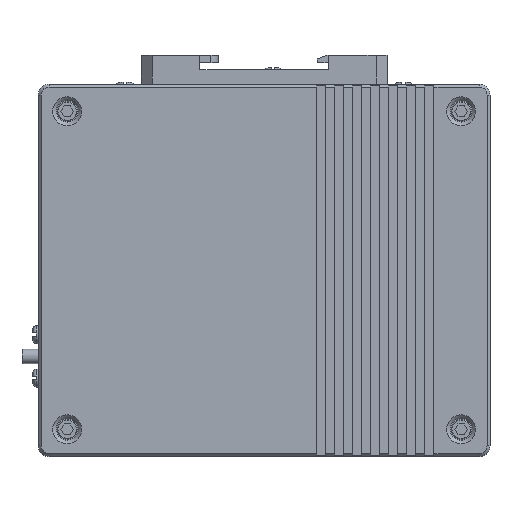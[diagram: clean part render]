
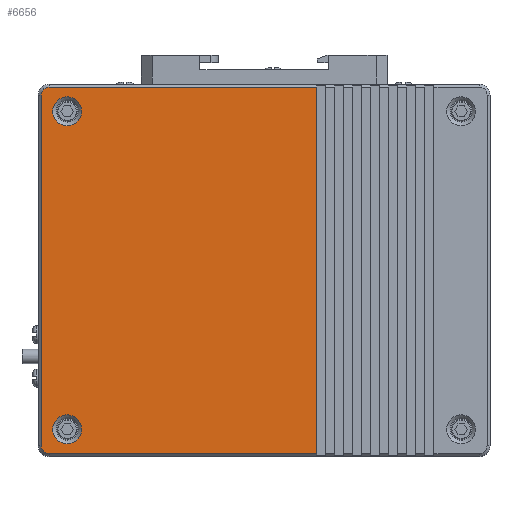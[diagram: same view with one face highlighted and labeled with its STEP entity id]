
A CAD part, top view. The second image highlights one B-rep face of the part: STEP entity #6656.
In plain terms, the highlighted planar face has unit normal (0, 0, 1).
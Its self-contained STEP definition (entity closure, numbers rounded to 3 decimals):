
#5659=CARTESIAN_POINT('',(14.5,-50.7,38.5));
#5660=VERTEX_POINT('',#5659);
#5667=CARTESIAN_POINT('',(-59.5,-50.7,38.5));
#5668=VERTEX_POINT('',#5667);
#5669=CARTESIAN_POINT('',(14.5,-50.7,38.5));
#5670=DIRECTION('',(-1.,0.,0.));
#5671=VECTOR('',#5670,74.);
#5672=LINE('',#5669,#5671);
#5673=EDGE_CURVE('',#5660,#5668,#5672,.T.);
#5697=CARTESIAN_POINT('',(-61.7,-48.5,38.5));
#5698=VERTEX_POINT('',#5697);
#5699=CARTESIAN_POINT('',(-59.5,-48.5,38.5));
#5700=DIRECTION('',(0.,-1.,0.));
#5701=DIRECTION('',(0.,0.,-1.));
#5702=AXIS2_PLACEMENT_3D('',#5699,#5701,#5700);
#5703=CIRCLE('',#5702,2.2);
#5704=EDGE_CURVE('',#5668,#5698,#5703,.T.);
#5722=CARTESIAN_POINT('',(-61.7,48.5,38.5));
#5723=VERTEX_POINT('',#5722);
#5724=CARTESIAN_POINT('',(-61.7,-48.5,38.5));
#5725=DIRECTION('',(0.,1.,0.));
#5726=VECTOR('',#5725,97.);
#5727=LINE('',#5724,#5726);
#5728=EDGE_CURVE('',#5698,#5723,#5727,.T.);
#5746=CARTESIAN_POINT('',(-59.5,50.7,38.5));
#5747=VERTEX_POINT('',#5746);
#5748=CARTESIAN_POINT('',(-59.5,48.5,38.5));
#5749=DIRECTION('',(-1.,0.,0.));
#5750=DIRECTION('',(0.,0.,-1.));
#5751=AXIS2_PLACEMENT_3D('',#5748,#5750,#5749);
#5752=CIRCLE('',#5751,2.2);
#5753=EDGE_CURVE('',#5723,#5747,#5752,.T.);
#5809=CARTESIAN_POINT('',(14.5,50.7,38.5));
#5810=VERTEX_POINT('',#5809);
#5811=CARTESIAN_POINT('',(-59.5,50.7,38.5));
#5812=DIRECTION('',(1.,0.,0.));
#5813=VECTOR('',#5812,74.);
#5814=LINE('',#5811,#5813);
#5815=EDGE_CURVE('',#5747,#5810,#5814,.T.);
#6593=CARTESIAN_POINT('',(14.5,50.7,38.5));
#6594=DIRECTION('',(0.,-1.,0.));
#6595=VECTOR('',#6594,101.4);
#6596=LINE('',#6593,#6595);
#6597=EDGE_CURVE('',#5810,#5660,#6596,.T.);
#6603=CARTESIAN_POINT('',(-59.5,-48.5,38.5));
#6604=DIRECTION('',(-1.,0.,0.));
#6605=DIRECTION('',(0.,0.,1.));
#6606=AXIS2_PLACEMENT_3D('',#6603,#6605,#6604);
#6607=PLANE('',#6606);
#6608=ORIENTED_EDGE('',*,*,#6597,.F.);
#6609=ORIENTED_EDGE('',*,*,#5815,.F.);
#6610=ORIENTED_EDGE('',*,*,#5753,.F.);
#6611=ORIENTED_EDGE('',*,*,#5728,.F.);
#6612=ORIENTED_EDGE('',*,*,#5704,.F.);
#6613=ORIENTED_EDGE('',*,*,#5673,.F.);
#6614=EDGE_LOOP('',(#6608,#6609,#6610,#6611,#6612,#6613));
#6615=FACE_OUTER_BOUND('',#6614,.T.);
#6616=CARTESIAN_POINT('',(-58.5,44.,38.5));
#6617=VERTEX_POINT('',#6616);
#6618=CARTESIAN_POINT('',(-50.5,44.,38.5));
#6619=VERTEX_POINT('',#6618);
#6620=CARTESIAN_POINT('',(-54.5,44.,38.5));
#6621=DIRECTION('',(-1.,0.,0.));
#6622=DIRECTION('',(0.,0.,-1.));
#6623=AXIS2_PLACEMENT_3D('',#6620,#6622,#6621);
#6624=CIRCLE('',#6623,4.);
#6625=EDGE_CURVE('',#6617,#6619,#6624,.T.);
#6626=ORIENTED_EDGE('',*,*,#6625,.T.);
#6627=CARTESIAN_POINT('',(-54.5,44.,38.5));
#6628=DIRECTION('',(1.,0.,0.));
#6629=DIRECTION('',(0.,0.,-1.));
#6630=AXIS2_PLACEMENT_3D('',#6627,#6629,#6628);
#6631=CIRCLE('',#6630,4.);
#6632=EDGE_CURVE('',#6619,#6617,#6631,.T.);
#6633=ORIENTED_EDGE('',*,*,#6632,.T.);
#6634=EDGE_LOOP('',(#6626,#6633));
#6635=FACE_BOUND('',#6634,.T.);
#6636=CARTESIAN_POINT('',(-58.5,-44.,38.5));
#6637=VERTEX_POINT('',#6636);
#6638=CARTESIAN_POINT('',(-50.5,-44.,38.5));
#6639=VERTEX_POINT('',#6638);
#6640=CARTESIAN_POINT('',(-54.5,-44.,38.5));
#6641=DIRECTION('',(-1.,0.,0.));
#6642=DIRECTION('',(0.,0.,-1.));
#6643=AXIS2_PLACEMENT_3D('',#6640,#6642,#6641);
#6644=CIRCLE('',#6643,4.);
#6645=EDGE_CURVE('',#6637,#6639,#6644,.T.);
#6646=ORIENTED_EDGE('',*,*,#6645,.T.);
#6647=CARTESIAN_POINT('',(-54.5,-44.,38.5));
#6648=DIRECTION('',(1.,0.,0.));
#6649=DIRECTION('',(0.,0.,-1.));
#6650=AXIS2_PLACEMENT_3D('',#6647,#6649,#6648);
#6651=CIRCLE('',#6650,4.);
#6652=EDGE_CURVE('',#6639,#6637,#6651,.T.);
#6653=ORIENTED_EDGE('',*,*,#6652,.T.);
#6654=EDGE_LOOP('',(#6646,#6653));
#6655=FACE_BOUND('',#6654,.T.);
#6656=ADVANCED_FACE('',(#6615,#6635,#6655),#6607,.T.);
